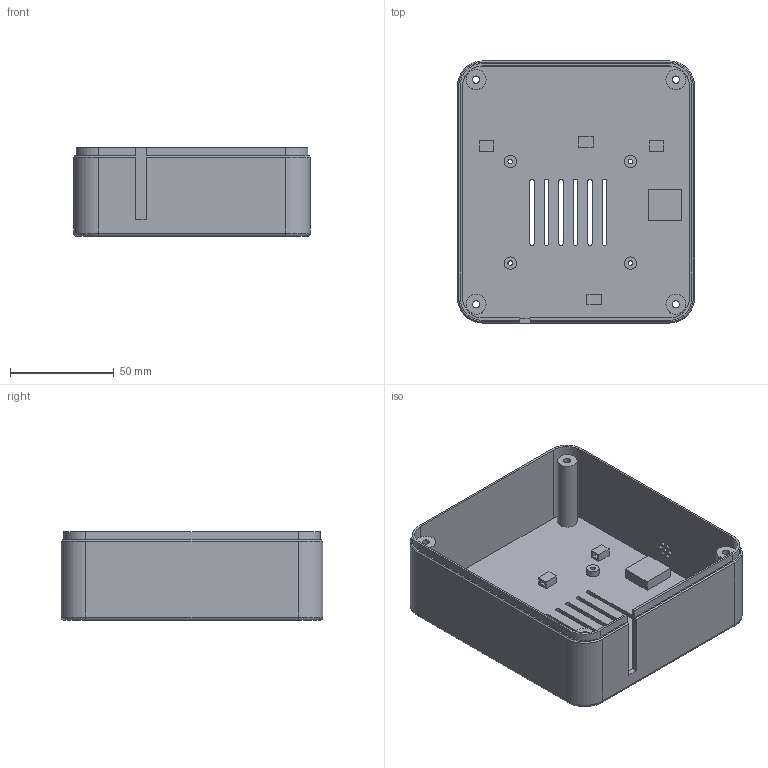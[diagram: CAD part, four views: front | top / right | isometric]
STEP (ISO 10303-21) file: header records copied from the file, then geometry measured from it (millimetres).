
FILE_DESCRIPTION(('Open CASCADE Model'),'2;1');
FILE_NAME('Open CASCADE Shape Model','2026-10-01T00:48:59',('Author'),( 'Open CASCADE'),'Open CASCADE STEP processor 7.9','Open CASCADE 7.9' ,'Unknown');
FILE_SCHEMA(('AUTOMOTIVE_DESIGN { 1 0 10303 214 1 1 1 1 }'));
Length unit declared in the file: millimetre
Products named in the file (1): Open CASCADE STEP translator 7.9 2
Bounding box: 114.34 x 126.4 x 42.8 mm (x, y, z)
Volume: 81606.1 mm3; surface area: 74614 mm2
Topology: 1 solids, 1 shells, 185 faces, 470 edges, 308 vertices
Faces by surface type: plane 106, cylinder 71, torus 4, cone 4
Full cylindrical faces by diameter (mm): 2 x7, 2.2 x4, 3.5 x4, 5.6 x4, 6 x4, 6.6 x4, 9.6 x4
Entity records: 11705 total; most frequent: CARTESIAN_POINT 2527, DIRECTION 1599, ORIENTED_EDGE 940, PCURVE 940, DEFINITIONAL_REPRESENTATION 940, LINE 851, VECTOR 851, EDGE_CURVE 470
